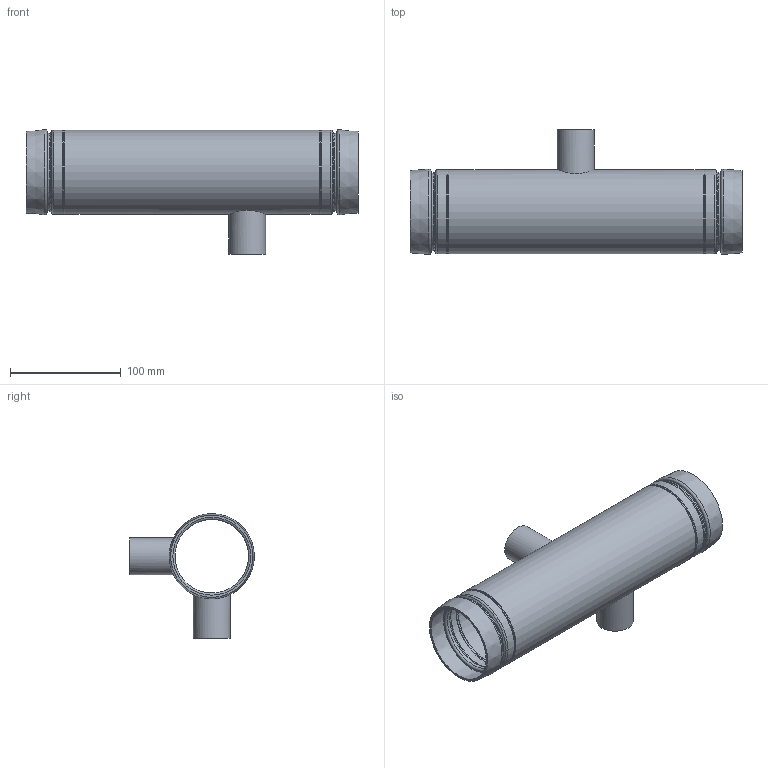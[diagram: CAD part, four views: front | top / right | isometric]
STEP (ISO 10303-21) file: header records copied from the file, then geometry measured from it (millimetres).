
FILE_DESCRIPTION(/* description */ ('VIC STRENGTHIN NIPPLE No E494I','CAx-IF Rec.Pracs.---Representation and Presentation of Product Manufacturing Information (PMI)---4.0---2014-10-13'),/* implementation_level */ '2;1');
FILE_NAME(/* name */ 'C:\ST100\STEP\Victaulic_SS-StrengThin 100_Nipple Instrumentation_No E494I (ST1)\Victaulic_SS-StrengThin 100_Nipple Instrumentation_No E494I (ST1)_02.5 (76.1) (65).stp',/* time_stamp */ '2021-06-17T18:16:20+06:00',/* author */ ('kkamble'),/* organization */ ('Victaulic'),/* preprocessor_version */ 'ST-DEVELOPER v17.2',/* originating_system */ 'Autodesk Inventor 2019',/* authorisation */ '');
FILE_SCHEMA (('AP242_MANAGED_MODEL_BASED_3D_ENGINEERING_MIM_LF { 1 0 10303 442 1 1 4 }'));
Length unit declared in the file: inch
Products named in the file (1): E494I-02.5 (76.1)
Bounding box: 299.72 x 112.65 x 112.65 mm (x, y, z)
Volume: 176641.1 mm3; surface area: 155496.7 mm2
Topology: 1 solids, 1 shells, 60 faces, 196 edges, 146 vertices
Faces by surface type: torus 26, cylinder 16, plane 10, cone 8
Full cylindrical faces by diameter (mm): 21.336 x2, 26.67 x2, 33.401 x2, 66.294 x2, 70.358 x2, 72.136 x3, 76.2 x3
Entity records: 2720 total; most frequent: CARTESIAN_POINT 620, DIRECTION 500, ORIENTED_EDGE 392, AXIS2_PLACEMENT_3D 238, EDGE_CURVE 196, CIRCLE 164, VERTEX_POINT 146, EDGE_LOOP 74
